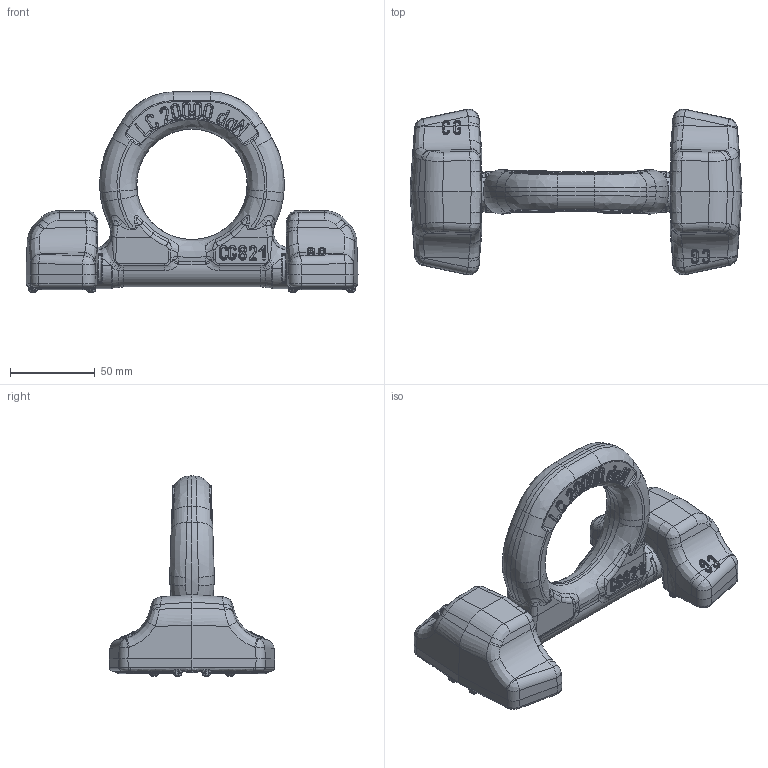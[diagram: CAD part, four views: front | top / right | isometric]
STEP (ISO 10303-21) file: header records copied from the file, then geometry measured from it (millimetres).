
FILE_DESCRIPTION(/* description */ (''),/* implementation_level */ '2;1');
FILE_NAME(/* name */ 'C821X20.stp',/* time_stamp */ '2011-12-02T15:11:06+01:00',/* author */ (''),/* organization */ (''),/* preprocessor_version */ 'ST-DEVELOPER v11',/* originating_system */ 'SIEMENS PLM Software NX 7.5',/* authorisation */ '');
FILE_SCHEMA (('CONFIG_CONTROL_DESIGN'));
Products named in the file (1): ugiiB87Ckfi1
Bounding box: 195.61 x 97.75 x 118 mm (x, y, z)
Volume: 388513.6 mm3; surface area: 60280.9 mm2
Topology: 3 solids, 3 shells, 1997 faces, 4906 edges, 2900 vertices
Faces by surface type: bspline 781, cylinder 629, plane 414, torus 113, sphere 32, cone 24, extrusion 4
Full cylindrical faces by diameter (mm): 24 x2
Entity records: 93213 total; most frequent: CARTESIAN_POINT 52789, ORIENTED_EDGE 9696, DIRECTION 7199, EDGE_CURVE 4848, VERTEX_POINT 2891, AXIS2_PLACEMENT_3D 2880, EDGE_LOOP 2029, ADVANCED_FACE 1995
